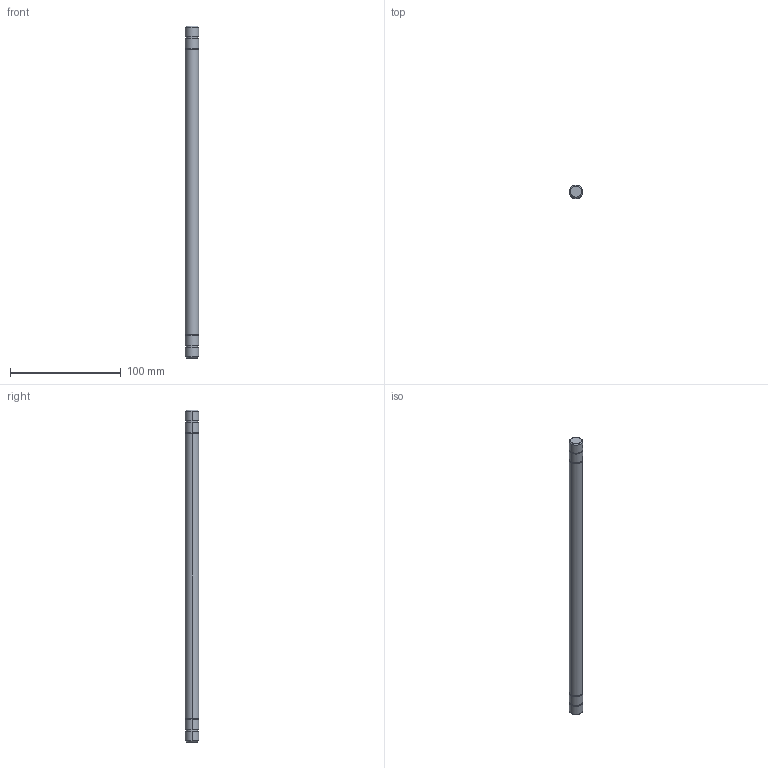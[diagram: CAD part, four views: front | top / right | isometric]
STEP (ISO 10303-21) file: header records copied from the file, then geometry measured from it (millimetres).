
FILE_DESCRIPTION (( 'STEP AP203' ), '1' );
FILE_NAME ('084.801.034.STEP', '2013-01-29T10:43:14', ( 'Alusic' ), ( 'Alusic' ), 'SwSTEP 2.0', 'SolidWorks 2011', '' );
FILE_SCHEMA (( 'CONFIG_CONTROL_DESIGN' ));
Length unit declared in the file: millimetre
Products named in the file (1): 084.801.034
Bounding box: 12 x 12 x 300 mm (x, y, z)
Volume: 33755.4 mm3; surface area: 11740.5 mm2
Topology: 1 solids, 1 shells, 32 faces, 62 edges, 40 vertices
Faces by surface type: cylinder 18, plane 10, cone 4
Entity records: 911 total; most frequent: DIRECTION 168, CARTESIAN_POINT 135, ORIENTED_EDGE 124, AXIS2_PLACEMENT_3D 73, EDGE_CURVE 62, CIRCLE 40, EDGE_LOOP 40, VERTEX_POINT 40
